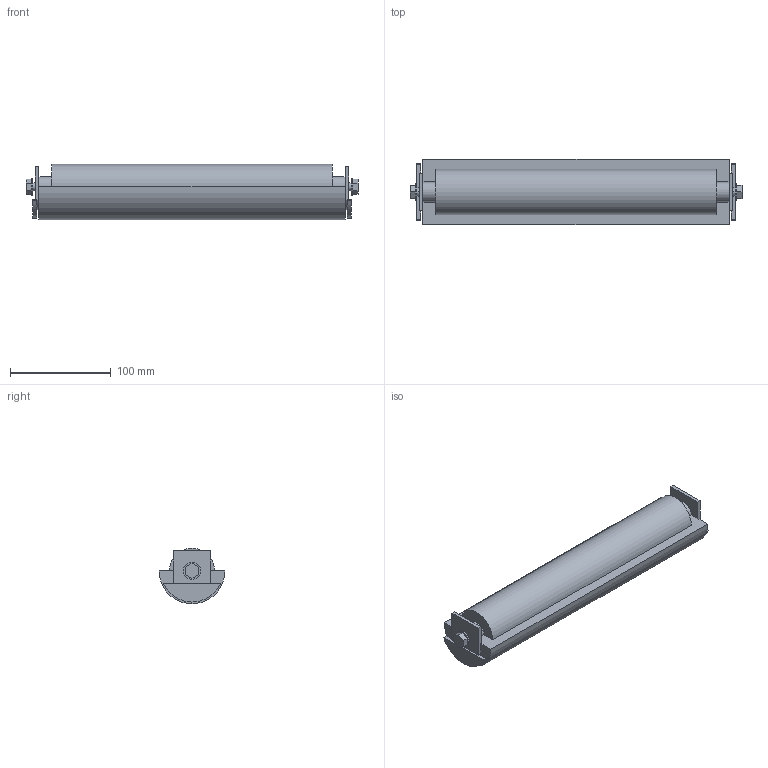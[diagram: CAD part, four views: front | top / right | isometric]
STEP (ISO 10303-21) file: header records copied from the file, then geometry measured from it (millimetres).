
FILE_DESCRIPTION (( 'STEP AP214' ), '1' );
FILE_NAME ('03.102I01.320.N FS-320-MTS2-100.INOX Idler section.STEP', '2025-02-11T11:25:37', ( '' ), ( '' ), 'SwSTEP 2.0', 'SolidWorks 2024', '' );
FILE_SCHEMA (( 'AUTOMOTIVE_DESIGN' ));
Length unit declared in the file: millimetre
Products named in the file (1): 03.102I01.320.N FS-320-MTS2-100.INOX Idler section
Bounding box: 329.8 x 65.4 x 55.2 mm (x, y, z)
Volume: 755271.8 mm3; surface area: 71141.3 mm2
Topology: 1 solids, 1 shells, 64 faces, 164 edges, 108 vertices
Faces by surface type: plane 40, cylinder 24
Entity records: 1967 total; most frequent: DIRECTION 342, CARTESIAN_POINT 337, ORIENTED_EDGE 328, EDGE_CURVE 164, LINE 116, VECTOR 116, AXIS2_PLACEMENT_3D 113, VERTEX_POINT 108
